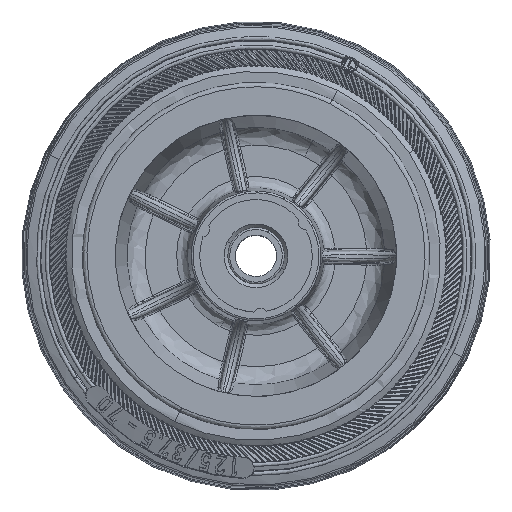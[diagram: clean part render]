
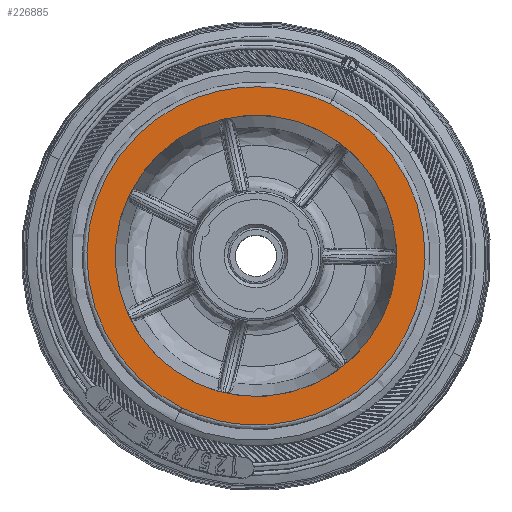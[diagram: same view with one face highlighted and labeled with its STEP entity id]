
A CAD part, top view. The second image highlights one B-rep face of the part: STEP entity #226885.
In plain terms, the highlighted planar face has unit normal (0, 0, 1).
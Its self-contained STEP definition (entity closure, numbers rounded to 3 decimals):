
#2210 = FACE_BOUND ( 'NONE', #171928, .T. ) ;
#3946 = EDGE_CURVE ( 'NONE', #160464, #214903, #249749, .T. ) ;
#35946 = CARTESIAN_POINT ( 'NONE',  ( 105.04, -18.808, 18.921 ) ) ;
#52510 = DIRECTION ( 'NONE',  ( 0., 0., 1. ) ) ;
#52520 = AXIS2_PLACEMENT_3D ( 'NONE', #87661, #221668, #239484 ) ;
#68509 = CARTESIAN_POINT ( 'NONE',  ( 62.287, 98.861, 18.921 ) ) ;
#68602 =( BOUNDED_CURVE ( )  B_SPLINE_CURVE ( 3, ( #204971, #184632, #68509, #204130 ),
 .UNSPECIFIED., .F., .F. ) 
 B_SPLINE_CURVE_WITH_KNOTS ( ( 4, 4 ),
 ( 0., 1. ),
 .UNSPECIFIED. ) 
 CURVE ( )  GEOMETRIC_REPRESENTATION_ITEM ( )  RATIONAL_B_SPLINE_CURVE ( ( 1., 0.333, 0.333, 1. ) ) 
 REPRESENTATION_ITEM ( '' )  );
#79636 = AXIS2_PLACEMENT_3D ( 'NONE', #246701, #52510, #245860 ) ;
#85771 = CARTESIAN_POINT ( 'NONE',  ( 89.749, 35.283, 18.921 ) ) ;
#87661 = CARTESIAN_POINT ( 'NONE',  ( 123.436, 18.809, 18.921 ) ) ;
#89013 = CARTESIAN_POINT ( 'NONE',  ( 143.227, 59.279, 18.921 ) ) ;
#96626 = EDGE_CURVE ( 'NONE', #96662, #250182, #104267, .T. ) ;
#96662 = VERTEX_POINT ( 'NONE', #125512 ) ;
#104267 =( BOUNDED_CURVE ( )  B_SPLINE_CURVE ( 3, ( #89013, #244185, #183116, #127985 ),
 .UNSPECIFIED., .F., .F. ) 
 B_SPLINE_CURVE_WITH_KNOTS ( ( 4, 4 ),
 ( 0., 1. ),
 .UNSPECIFIED. ) 
 CURVE ( )  GEOMETRIC_REPRESENTATION_ITEM ( )  RATIONAL_B_SPLINE_CURVE ( ( 1., 0.333, 0.333, 1. ) ) 
 REPRESENTATION_ITEM ( '' )  );
#125512 = CARTESIAN_POINT ( 'NONE',  ( 143.227, 59.279, 18.921 ) ) ;
#127985 = CARTESIAN_POINT ( 'NONE',  ( 103.645, -21.661, 18.921 ) ) ;
#136250 = ORIENTED_EDGE ( 'NONE', *, *, #138392, .F. ) ;
#138392 = EDGE_CURVE ( 'NONE', #250182, #96662, #68602, .T. ) ;
#152899 = DIRECTION ( 'NONE',  ( 0., 0., -1. ) ) ;
#160464 = VERTEX_POINT ( 'NONE', #184785 ) ;
#166002 = FACE_OUTER_BOUND ( 'NONE', #189525, .T. ) ;
#169093 = ORIENTED_EDGE ( 'NONE', *, *, #182819, .F. ) ;
#171928 = EDGE_LOOP ( 'NONE', ( #169093, #243278 ) ) ;
#178418 = AXIS2_PLACEMENT_3D ( 'NONE', #35946, #152899, #227625 ) ;
#182819 = EDGE_CURVE ( 'NONE', #214903, #160464, #222311, .T. ) ;
#183116 = CARTESIAN_POINT ( 'NONE',  ( 184.585, -61.243, 18.921 ) ) ;
#184632 = CARTESIAN_POINT ( 'NONE',  ( 22.705, 17.921, 18.921 ) ) ;
#184785 = CARTESIAN_POINT ( 'NONE',  ( 157.124, 2.335, 18.921 ) ) ;
#189525 = EDGE_LOOP ( 'NONE', ( #205699, #136250 ) ) ;
#204130 = CARTESIAN_POINT ( 'NONE',  ( 143.227, 59.279, 18.921 ) ) ;
#204971 = CARTESIAN_POINT ( 'NONE',  ( 103.645, -21.661, 18.921 ) ) ;
#205699 = ORIENTED_EDGE ( 'NONE', *, *, #96626, .F. ) ;
#206538 = CARTESIAN_POINT ( 'NONE',  ( 103.645, -21.661, 18.921 ) ) ;
#214903 = VERTEX_POINT ( 'NONE', #85771 ) ;
#221668 = DIRECTION ( 'NONE',  ( 0., 0., 1. ) ) ;
#222311 = CIRCLE ( 'NONE', #52520, 37.5 ) ;
#226885 = ADVANCED_FACE ( 'NONE', ( #166002, #2210 ), #247950, .F. ) ;
#227625 = DIRECTION ( 'NONE',  ( 0.898, -0.439, 0. ) ) ;
#239484 = DIRECTION ( 'NONE',  ( -0.898, 0.439, 0. ) ) ;
#243278 = ORIENTED_EDGE ( 'NONE', *, *, #3946, .F. ) ;
#244185 = CARTESIAN_POINT ( 'NONE',  ( 224.167, 19.697, 18.921 ) ) ;
#245860 = DIRECTION ( 'NONE',  ( -0.898, 0.439, 0. ) ) ;
#246701 = CARTESIAN_POINT ( 'NONE',  ( 123.436, 18.809, 18.921 ) ) ;
#247950 = PLANE ( 'NONE',  #178418 ) ;
#249749 = CIRCLE ( 'NONE', #79636, 37.5 ) ;
#250182 = VERTEX_POINT ( 'NONE', #206538 ) ;
